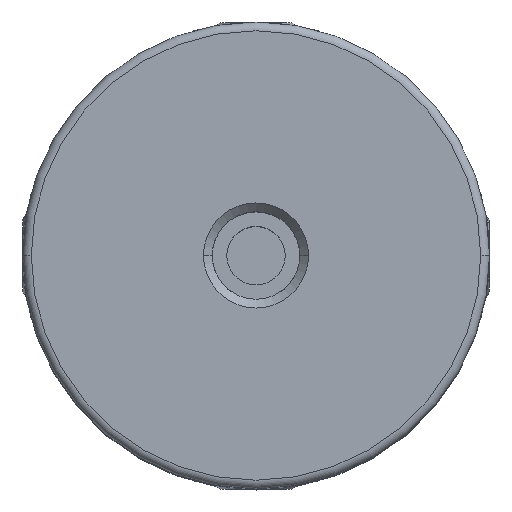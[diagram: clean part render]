
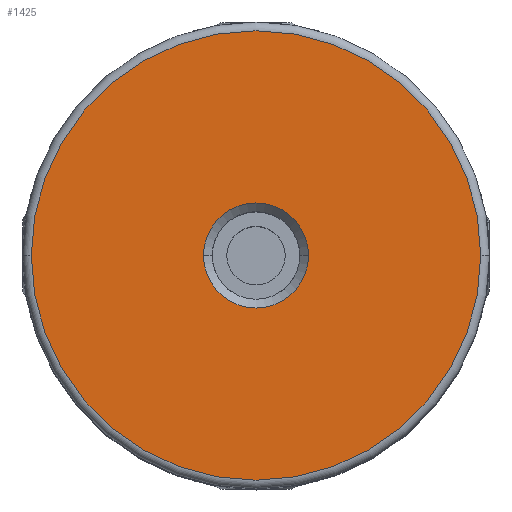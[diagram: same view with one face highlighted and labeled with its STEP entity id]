
A CAD part, top view. The second image highlights one B-rep face of the part: STEP entity #1425.
In plain terms, the highlighted planar face has unit normal (0, 0, 1).
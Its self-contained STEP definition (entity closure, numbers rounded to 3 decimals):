
#157 = CIRCLE ( 'NONE', #4388, 1.8 ) ;
#158 = CIRCLE ( 'NONE', #4387, 7.7 ) ;
#604 = CIRCLE ( 'NONE', #4506, 7.7 ) ;
#804 = CARTESIAN_POINT ( 'NONE',  ( 0., 0., 8.95 ) ) ;
#805 = DIRECTION ( 'NONE',  ( 0., 0., -1. ) ) ;
#806 = DIRECTION ( 'NONE',  ( 0., 1., 0. ) ) ;
#836 = CARTESIAN_POINT ( 'NONE',  ( -1.8, 0., 8.95 ) ) ;
#906 = CARTESIAN_POINT ( 'NONE',  ( -7.7, 0., 8.95 ) ) ;
#1019 = CARTESIAN_POINT ( 'NONE',  ( 7.7, 0., 8.95 ) ) ;
#1047 = CARTESIAN_POINT ( 'NONE',  ( 1.8, 0., 8.95 ) ) ;
#1212 = CIRCLE ( 'NONE', #4612, 1.8 ) ;
#1425 = ADVANCED_FACE ( 'NONE', ( #3402, #3421 ), #2245, .F. ) ;
#1505 = EDGE_LOOP ( 'NONE', ( #5208, #5213 ) ) ;
#2121 = DIRECTION ( 'NONE',  ( 0., 1., 0. ) ) ;
#2181 = CARTESIAN_POINT ( 'NONE',  ( 0., 0., 8.95 ) ) ;
#2183 = DIRECTION ( 'NONE',  ( 0., 0., 1. ) ) ;
#2187 = DIRECTION ( 'NONE',  ( 0., 0., -1. ) ) ;
#2192 = CARTESIAN_POINT ( 'NONE',  ( 0., 0., 8.95 ) ) ;
#2194 = DIRECTION ( 'NONE',  ( -1., 0., 0. ) ) ;
#2243 = DIRECTION ( 'NONE',  ( 0., 0., -1. ) ) ;
#2245 = PLANE ( 'NONE',  #4323 ) ;
#2247 = DIRECTION ( 'NONE',  ( -1., 0., 0. ) ) ;
#2250 = CARTESIAN_POINT ( 'NONE',  ( 0., 0., 8.95 ) ) ;
#3315 = EDGE_LOOP ( 'NONE', ( #5665, #5303 ) ) ;
#3402 = FACE_BOUND ( 'NONE', #1505, .T. ) ;
#3421 = FACE_OUTER_BOUND ( 'NONE', #3315, .T. ) ;
#3768 = EDGE_CURVE ( 'NONE', #5228, #5656, #158, .T. ) ;
#3769 = EDGE_CURVE ( 'NONE', #5100, #5727, #157, .T. ) ;
#4099 = EDGE_CURVE ( 'NONE', #5656, #5228, #604, .T. ) ;
#4210 = EDGE_CURVE ( 'NONE', #5727, #5100, #1212, .T. ) ;
#4323 = AXIS2_PLACEMENT_3D ( 'NONE', #2250, #2243, #2247 ) ;
#4387 = AXIS2_PLACEMENT_3D ( 'NONE', #2192, #2183, #2194 ) ;
#4388 = AXIS2_PLACEMENT_3D ( 'NONE', #2181, #2187, #2121 ) ;
#4506 = AXIS2_PLACEMENT_3D ( 'NONE', #4547, #4549, #4550 ) ;
#4547 = CARTESIAN_POINT ( 'NONE',  ( 0., 0., 8.95 ) ) ;
#4549 = DIRECTION ( 'NONE',  ( 0., 0., 1. ) ) ;
#4550 = DIRECTION ( 'NONE',  ( -1., 0., 0. ) ) ;
#4612 = AXIS2_PLACEMENT_3D ( 'NONE', #804, #805, #806 ) ;
#5100 = VERTEX_POINT ( 'NONE', #836 ) ;
#5208 = ORIENTED_EDGE ( 'NONE', *, *, #4210, .T. ) ;
#5213 = ORIENTED_EDGE ( 'NONE', *, *, #3769, .T. ) ;
#5228 = VERTEX_POINT ( 'NONE', #906 ) ;
#5303 = ORIENTED_EDGE ( 'NONE', *, *, #4099, .T. ) ;
#5656 = VERTEX_POINT ( 'NONE', #1019 ) ;
#5665 = ORIENTED_EDGE ( 'NONE', *, *, #3768, .T. ) ;
#5727 = VERTEX_POINT ( 'NONE', #1047 ) ;
